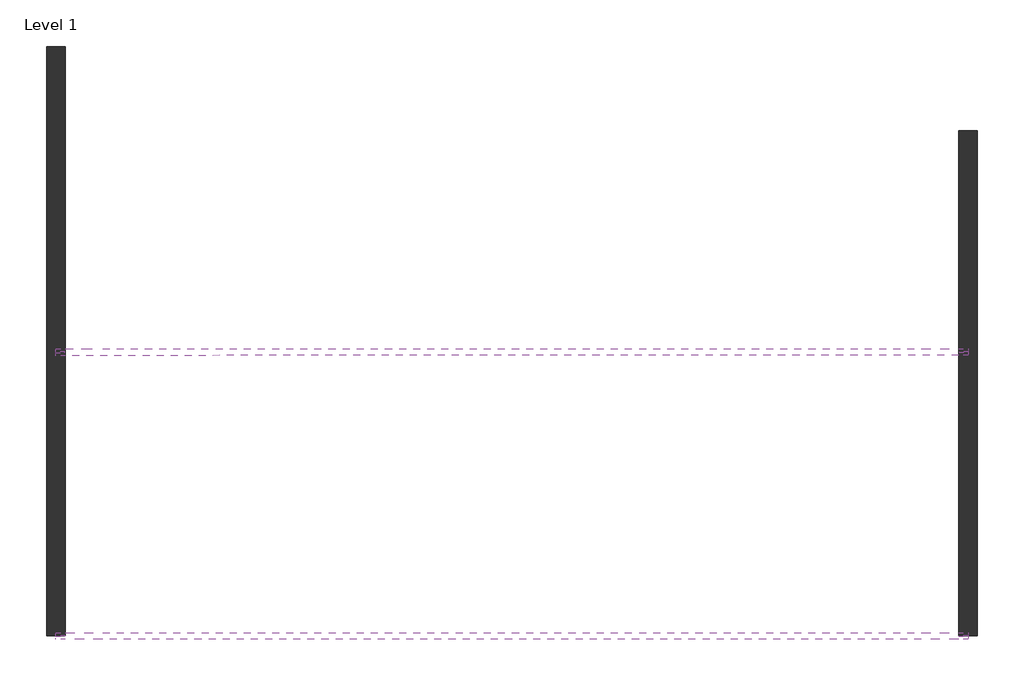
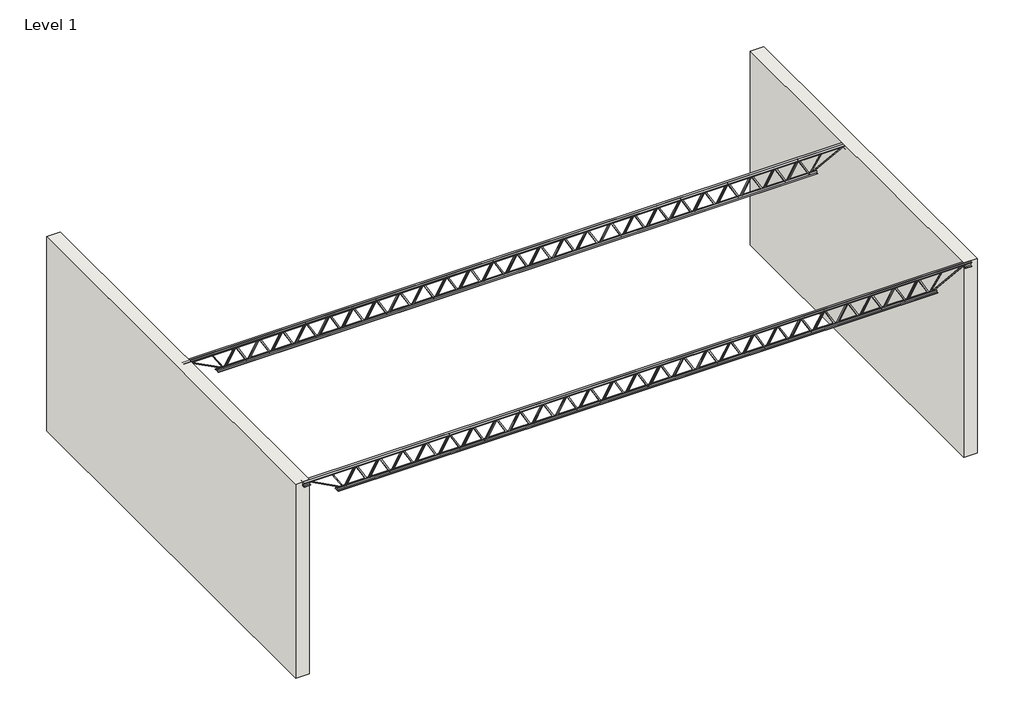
# One storey: 2 beams, 2 walls.
"""IFC4 building model written with IfcOpenShell, lengths in millimetres."""

from ifc_helpers import new_model, si_unit, origin, origin_with_axes, place, context, project, spatial, polyline, outline, extrude, transform, mapped, element, save
from components import k_series_bar_joist_angle_web_12k1_d835311e, k_series_bar_joist_angle_web_12k1_3e4be9d7

model = new_model("IFC4")

# Units and contexts
model_context = context("Model", 3, world=origin())
ifc_project = project(units=[si_unit("LENGTHUNIT", "METRE", prefix="MILLI")], contexts=[model_context])

# Site, building, storey
site = spatial("IfcSite", under=ifc_project)
building = spatial("IfcBuilding", under=site)
storey = spatial("IfcBuildingStorey", under=building, Name="Level 1", Elevation=0.0)

# Beams
placement = place(None, origin())
k_series_bar_joist_angle_web_12k1_shape = k_series_bar_joist_angle_web_12k1_d835311e(model_context)
element("IfcBeam", 1, ObjectType="K-Series Bar Joist-Angle Web : 12K1", at=placement, inside=storey, context=model_context, shape_type="MappedRepresentation", body=[
    mapped(k_series_bar_joist_angle_web_12k1_shape, transform((-8166.662017, 4504.8405087, 2895.6), x_axis=(1.0, 0.0, 0.0), y_axis=(0.0, 1.0, 0.0), z_axis=(0.0, 0.0, 1.0))),
])
k_series_bar_joist_angle_web_12k1_2_shape = k_series_bar_joist_angle_web_12k1_3e4be9d7(model_context)
element("IfcBeam", 2, ObjectType="K-Series Bar Joist-Angle Web : 12K1", at=placement, inside=storey, context=model_context, shape_type="MappedRepresentation", body=[
    mapped(k_series_bar_joist_angle_web_12k1_2_shape, transform((-8166.662017, 7587.4342723, 2895.6), x_axis=(0.999999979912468, 0.0002004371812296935, 0.0), y_axis=(-0.0002004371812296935, 0.999999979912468, 0.0), z_axis=(0.0, 0.0, 1.0))),
])

# Walls
element("IfcWall", 3, ObjectType="Generic - 8\"", at=placement, inside=storey, context=model_context, shape_type="SweptSolid", body=[
    extrude(outline(polyline([(-13221.262017, 4504.8405087), (-13221.262017, 10905.6405087), (-13018.062017, 10905.6405087), (-13018.062017, 4504.8405087), (-13221.262017, 4504.8405087)])), origin_with_axes(), (0.0, 0.0, 1.0), 3048.0),
])
element("IfcWall", 4, ObjectType="Generic - 8\"", at=placement, inside=storey, context=model_context, shape_type="SweptSolid", body=[
    extrude(outline(polyline([(-3315.262017, 4504.8405087), (-3315.262017, 9991.2405087), (-3112.062017, 9991.2405087), (-3112.062017, 4504.8405087), (-3315.262017, 4504.8405087)])), origin_with_axes(), (0.0, 0.0, 1.0), 3048.0),
])

save(model, "model.ifc")
